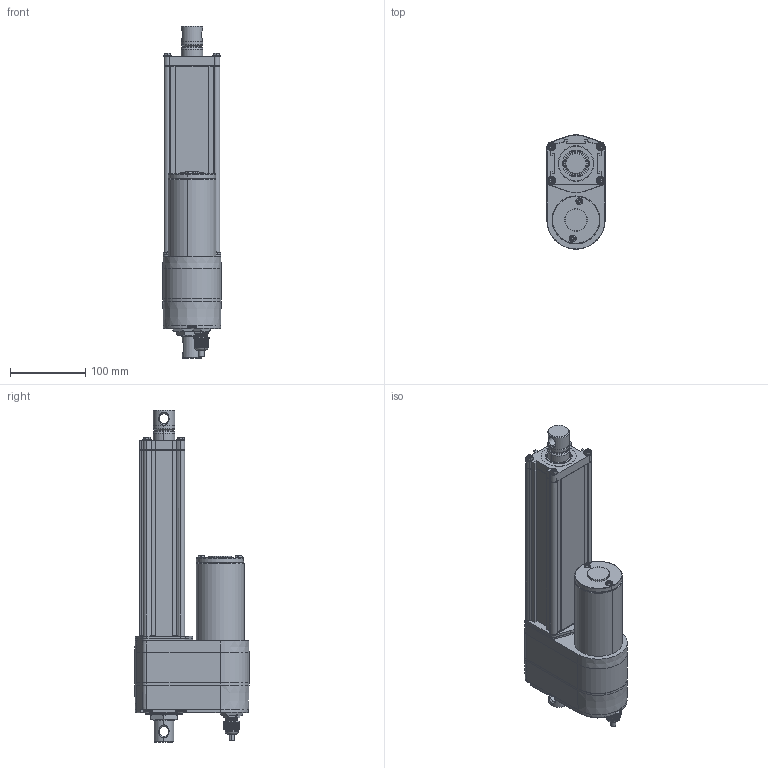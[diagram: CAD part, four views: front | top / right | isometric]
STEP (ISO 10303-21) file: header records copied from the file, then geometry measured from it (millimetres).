
FILE_DESCRIPTION((''),' ');
FILE_NAME('dszy13-100-lt.stp',' ',('R. Lindner'),('MSW'),' ','ACIS 14.0',' ');
FILE_SCHEMA(('automotive_design'));
Length unit declared in the file: inch
Products named in the file (2): DSZY13-LT
Bounding box: 77.3 x 151.8 x 440.5 mm (x, y, z)
Volume: 2332442.2 mm3; surface area: 245938.2 mm2
Topology: 2 solids, 30 shells, 2576 faces, 6637 edges, 4193 vertices
Faces by surface type: plane 1355, cylinder 785, bspline 163, cone 133, torus 124, sphere 16
Entity records: 108074 total; most frequent: CARTESIAN_POINT 27790, ORIENTED_EDGE 13214, DIRECTION 11640, EDGE_CURVE 6607, AXIS2_PLACEMENT_3D 4198, VERTEX_POINT 4193, LINE 3244, VECTOR 3244
